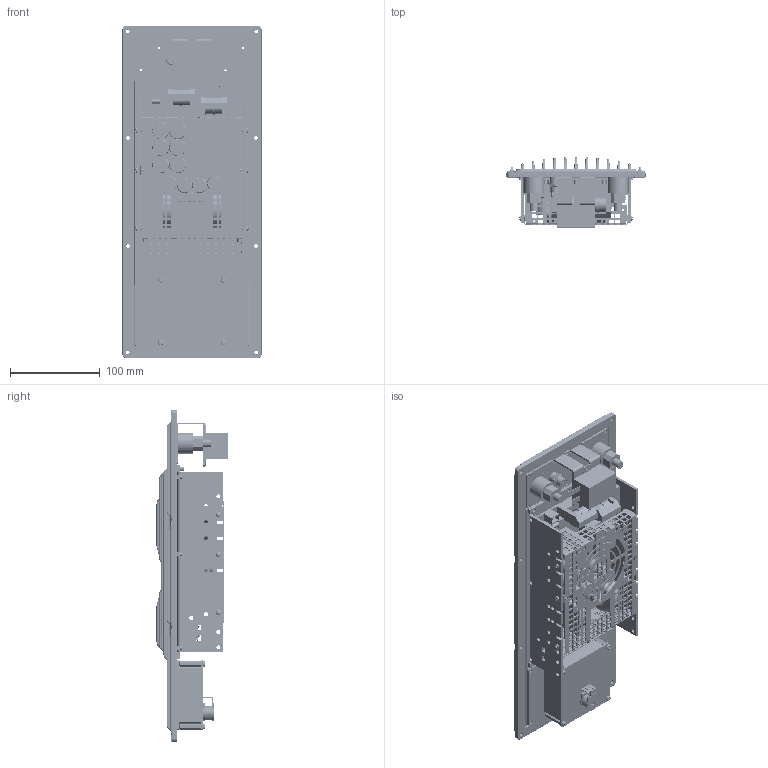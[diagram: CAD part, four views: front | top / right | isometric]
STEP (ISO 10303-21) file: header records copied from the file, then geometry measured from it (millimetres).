
FILE_DESCRIPTION((''),'2;1');
FILE_NAME('POWERSOFT_DM1000_IS_MECH3D_ASM','2012-01-19T',('carlo'),(''),'PRO/ENGINEER BY PARAMETRIC TECHNOLOGY CORPORATION, 2010480','PRO/ENGINEER BY PARAMETRIC TECHNOLOGY CORPORATION, 2010480','');
FILE_SCHEMA(('CONFIG_CONTROL_DESIGN'));
Products named in the file (26): POWERSOFT_DM1000_IS_MECH3D_SKEL; FILTRO; ME000397; CONNETTORE_NEUTRIK; CABIATENSIONE; ME000472_REV01; PIASTRINO_CONNETTORI; VI000051; SO-M3-4; ME000156-394; ME000156-310_ASM; SIMM_SOCKET; SM000544-422; SM000544-282_ASM; FH-M4-8; SO-M3-8; ME000313-366; ME000313-296_ASM; ASSEM1_ASM; POWERSOFT_DM1000_MECH3D_ASM; MW_5110_SM624; COLONNINA24_6; VITE_M3X6_UNI7687; COLONNINA_7_5; VITE_M3X6_UNI7688-A2; POWERSOFT_DM1000_IS_MECH3D_ASM
Assembly tree (54 placements, depth 5):
  POWERSOFT_DM1000_IS_MECH3D_ASM
    POWERSOFT_DM1000_IS_MECH3D_SKEL
    FILTRO
    ME000397
    CONNETTORE_NEUTRIK  x2
    CABIATENSIONE
    ME000472_REV01
    PIASTRINO_CONNETTORI
    POWERSOFT_DM1000_MECH3D_ASM
      ASSEM1_ASM
        VI000051  x6
        ME000156-310_ASM
          SO-M3-4  x2
          ME000156-394
        SM000544-282_ASM
          SIMM_SOCKET  x2
          SM000544-422
        ME000313-296_ASM
          FH-M4-8
          SO-M3-8  x8
          ME000313-366
    MW_5110_SM624
    COLONNINA24_6  x4
    VITE_M3X6_UNI7687  x4
    COLONNINA_7_5  x2
    VITE_M3X6_UNI7688-A2  x8
Bounding box: 155 x 79.25 x 370 mm (x, y, z)
Volume: 1053972.5 mm3; surface area: 480678.9 mm2
Topology: 48 solids, 48 shells, 7696 faces, 20260 edges, 13207 vertices
Faces by surface type: plane 5242, cylinder 1780, torus 258, bspline 216, cone 152, extrusion 30, sphere 18
Entity records: 194054 total; most frequent: CARTESIAN_POINT 54121, ORIENTED_EDGE 29246, DIRECTION 28055, EDGE_CURVE 14623, VECTOR 10643, LINE 10613, VERTEX_POINT 9462, AXIS2_PLACEMENT_3D 8706
